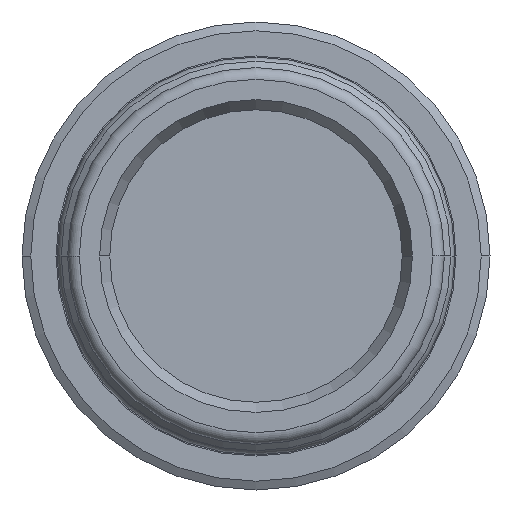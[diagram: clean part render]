
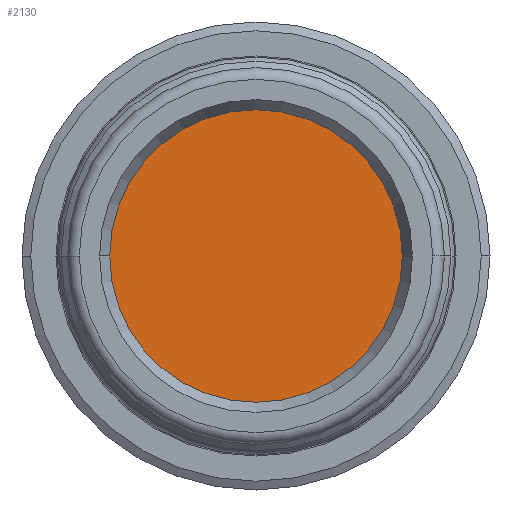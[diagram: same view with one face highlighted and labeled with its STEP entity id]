
A CAD part, front view. The second image highlights one B-rep face of the part: STEP entity #2130.
In plain terms, the highlighted planar face has unit normal (0, -1, 0).
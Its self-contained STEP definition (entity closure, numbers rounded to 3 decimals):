
#1040 = VERTEX_POINT ( 'NONE', #8286 ) ;
#1070 = AXIS2_PLACEMENT_3D ( 'NONE', #8755, #3495, #1614 ) ;
#1614 = DIRECTION ( 'NONE',  ( 0., 0., -1. ) ) ;
#1703 = CARTESIAN_POINT ( 'NONE',  ( 0., 0., 0. ) ) ;
#1736 = AXIS2_PLACEMENT_3D ( 'NONE', #2911, #4633, #7393 ) ;
#1904 = EDGE_CURVE ( 'NONE', #1040, #7975, #4090, .T. ) ;
#2130 = ADVANCED_FACE ( 'NONE', ( #10911 ), #4711, .T. ) ;
#2911 = CARTESIAN_POINT ( 'NONE',  ( 0., 0., 0. ) ) ;
#3296 = CIRCLE ( 'NONE', #3314, 12.5 ) ;
#3314 = AXIS2_PLACEMENT_3D ( 'NONE', #1703, #11349, #3443 ) ;
#3443 = DIRECTION ( 'NONE',  ( 0., 0., -1. ) ) ;
#3495 = DIRECTION ( 'NONE',  ( 0., -1., 0. ) ) ;
#3696 = CARTESIAN_POINT ( 'NONE',  ( 0., 0., -12.5 ) ) ;
#3984 = ORIENTED_EDGE ( 'NONE', *, *, #1904, .T. ) ;
#4090 = CIRCLE ( 'NONE', #1070, 12.5 ) ;
#4633 = DIRECTION ( 'NONE',  ( 0., -1., 0. ) ) ;
#4711 = PLANE ( 'NONE',  #1736 ) ;
#5292 = ORIENTED_EDGE ( 'NONE', *, *, #7000, .T. ) ;
#7000 = EDGE_CURVE ( 'NONE', #7975, #1040, #3296, .T. ) ;
#7393 = DIRECTION ( 'NONE',  ( 0., 0., -1. ) ) ;
#7975 = VERTEX_POINT ( 'NONE', #3696 ) ;
#8286 = CARTESIAN_POINT ( 'NONE',  ( 0., 0., 12.5 ) ) ;
#8755 = CARTESIAN_POINT ( 'NONE',  ( 0., 0., 0. ) ) ;
#9525 = EDGE_LOOP ( 'NONE', ( #5292, #3984 ) ) ;
#10911 = FACE_OUTER_BOUND ( 'NONE', #9525, .T. ) ;
#11349 = DIRECTION ( 'NONE',  ( 0., -1., 0. ) ) ;
